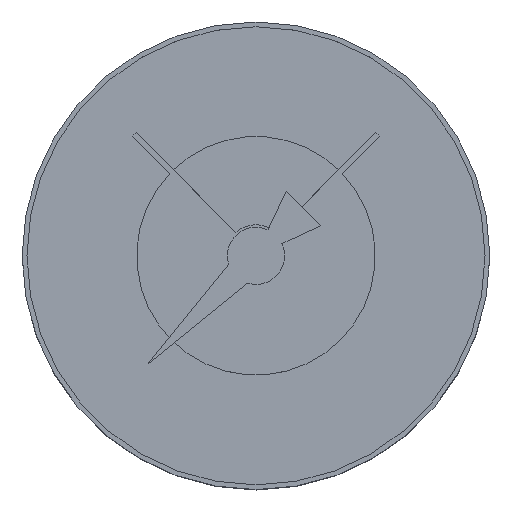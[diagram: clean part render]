
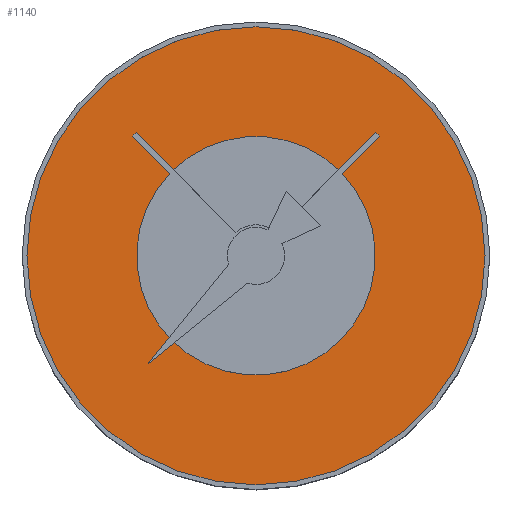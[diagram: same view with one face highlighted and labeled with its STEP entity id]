
A CAD part, top view. The second image highlights one B-rep face of the part: STEP entity #1140.
In plain terms, the highlighted planar face has unit normal (0, 0, 1).
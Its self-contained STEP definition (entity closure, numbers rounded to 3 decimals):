
#275=CARTESIAN_POINT('',(0.,0.,46.5));
#276=DIRECTION('',(0.,0.,1.));
#277=DIRECTION('',(0.,1.,0.));
#278=AXIS2_PLACEMENT_3D('',#275,#276,#277);
#284=CARTESIAN_POINT('',(0.,0.,46.5));
#285=DIRECTION('',(0.,0.,-1.));
#286=DIRECTION('',(0.,1.,0.));
#287=AXIS2_PLACEMENT_3D('',#284,#285,#286);
#293=CARTESIAN_POINT('',(0.,0.,46.5));
#294=DIRECTION('',(0.,0.,1.));
#295=DIRECTION('',(0.693,0.721,0.));
#296=AXIS2_PLACEMENT_3D('',#293,#294,#295);
#298=DIRECTION('',(-0.707,0.707,0.));
#299=VECTOR('',#298,5.503);
#300=CARTESIAN_POINT('',(-8.66,9.014,46.5));
#301=LINE('',#300,#299);
#302=DIRECTION('',(-0.707,-0.707,0.));
#303=VECTOR('',#302,0.5);
#304=CARTESIAN_POINT('',(-12.551,12.905,46.5));
#305=LINE('',#304,#303);
#306=DIRECTION('',(0.707,-0.707,0.));
#307=VECTOR('',#306,5.503);
#308=CARTESIAN_POINT('',(-12.905,12.551,46.5));
#309=LINE('',#308,#307);
#310=CARTESIAN_POINT('',(0.,0.,46.5));
#311=DIRECTION('',(0.,0.,1.));
#312=DIRECTION('',(-0.721,0.693,0.));
#313=AXIS2_PLACEMENT_3D('',#310,#311,#312);
#315=DIRECTION('',(0.707,0.707,0.));
#316=VECTOR('',#315,5.503);
#317=CARTESIAN_POINT('',(9.014,8.66,46.5));
#318=LINE('',#317,#316);
#319=DIRECTION('',(-0.707,0.707,0.));
#320=VECTOR('',#319,0.5);
#321=CARTESIAN_POINT('',(12.905,12.551,46.5));
#322=LINE('',#321,#320);
#323=DIRECTION('',(-0.707,-0.707,0.));
#324=VECTOR('',#323,5.503);
#325=CARTESIAN_POINT('',(12.551,12.905,46.5));
#326=LINE('',#325,#324);
#579=CARTESIAN_POINT('',(0.,24.,46.5));
#580=CARTESIAN_POINT('',(0.,-24.,46.5));
#581=VERTEX_POINT('',#579);
#582=VERTEX_POINT('',#580);
#655=CARTESIAN_POINT('',(-9.014,8.66,46.5));
#656=CARTESIAN_POINT('',(9.014,8.66,46.5));
#657=VERTEX_POINT('',#655);
#658=VERTEX_POINT('',#656);
#659=CARTESIAN_POINT('',(12.905,12.551,46.5));
#660=VERTEX_POINT('',#659);
#661=CARTESIAN_POINT('',(-12.905,12.551,46.5));
#662=VERTEX_POINT('',#661);
#663=CARTESIAN_POINT('',(12.551,12.905,46.5));
#664=VERTEX_POINT('',#663);
#665=CARTESIAN_POINT('',(-12.551,12.905,46.5));
#666=VERTEX_POINT('',#665);
#667=CARTESIAN_POINT('',(8.66,9.014,46.5));
#668=CARTESIAN_POINT('',(-8.66,9.014,46.5));
#669=VERTEX_POINT('',#667);
#670=VERTEX_POINT('',#668);
#1113=CARTESIAN_POINT('',(0.,0.,46.5));
#1114=DIRECTION('',(0.,0.,1.));
#1115=DIRECTION('',(0.,1.,0.));
#1116=AXIS2_PLACEMENT_3D('',#1113,#1114,#1115);
#1117=PLANE('',#1116);
#1118=ORIENTED_EDGE('',*,*,#1107,.T.);
#1119=ORIENTED_EDGE('',*,*,#1093,.F.);
#1120=EDGE_LOOP('',(#1118,#1119));
#1121=FACE_OUTER_BOUND('',#1120,.F.);
#1123=ORIENTED_EDGE('',*,*,#1122,.T.);
#1125=ORIENTED_EDGE('',*,*,#1124,.T.);
#1127=ORIENTED_EDGE('',*,*,#1126,.T.);
#1129=ORIENTED_EDGE('',*,*,#1128,.T.);
#1131=ORIENTED_EDGE('',*,*,#1130,.T.);
#1133=ORIENTED_EDGE('',*,*,#1132,.T.);
#1135=ORIENTED_EDGE('',*,*,#1134,.T.);
#1137=ORIENTED_EDGE('',*,*,#1136,.T.);
#1138=EDGE_LOOP('',(#1123,#1125,#1127,#1129,#1131,#1133,#1135,#1137));
#1139=FACE_BOUND('',#1138,.F.);
#279=CIRCLE('',#278,24.);
#288=CIRCLE('',#287,24.);
#297=CIRCLE('',#296,12.5);
#314=CIRCLE('',#313,12.5);
#1093=EDGE_CURVE('',#581,#582,#279,.T.);
#1107=EDGE_CURVE('',#581,#582,#288,.T.);
#1122=EDGE_CURVE('',#669,#670,#297,.T.);
#1124=EDGE_CURVE('',#670,#666,#301,.T.);
#1126=EDGE_CURVE('',#666,#662,#305,.T.);
#1128=EDGE_CURVE('',#662,#657,#309,.T.);
#1130=EDGE_CURVE('',#657,#658,#314,.T.);
#1132=EDGE_CURVE('',#658,#660,#318,.T.);
#1134=EDGE_CURVE('',#660,#664,#322,.T.);
#1136=EDGE_CURVE('',#664,#669,#326,.T.);
#1140=ADVANCED_FACE('',(#1121,#1139),#1117,.T.);
